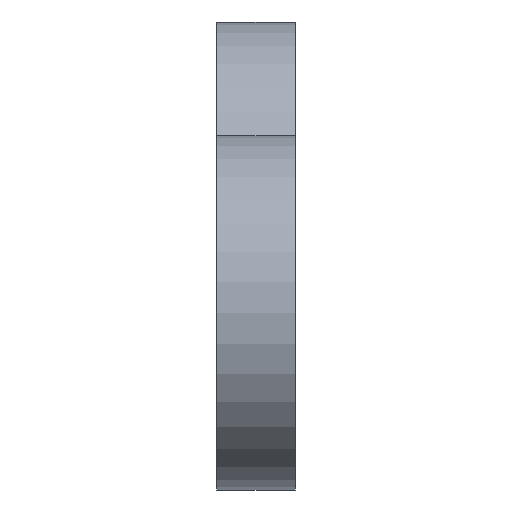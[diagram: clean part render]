
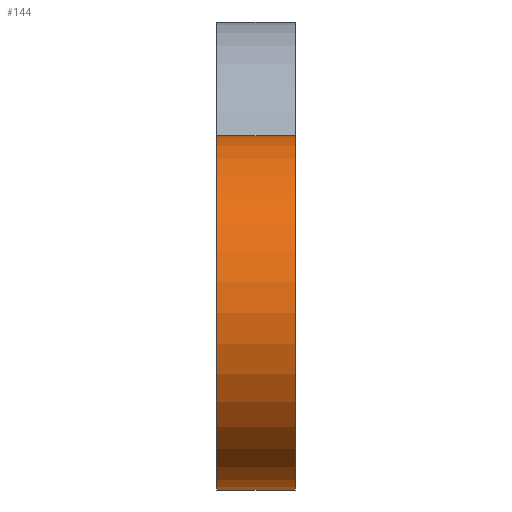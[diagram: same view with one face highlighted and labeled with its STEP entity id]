
A CAD part, top view. The second image highlights one B-rep face of the part: STEP entity #144.
In plain terms, the highlighted cylindrical face has radius 2.25 mm (diameter 4.5 mm), a partial arc.
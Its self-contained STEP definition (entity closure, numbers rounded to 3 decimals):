
#26=FACE_OUTER_BOUND('',#34,.T.);
#34=EDGE_LOOP('',(#113,#114,#115,#116));
#47=LINE('',#259,#57);
#48=LINE('',#262,#58);
#57=VECTOR('',#216,1000.);
#58=VECTOR('',#219,1000.);
#69=CIRCLE('',#182,2.25);
#70=CIRCLE('',#183,2.25);
#79=VERTEX_POINT('',#255);
#80=VERTEX_POINT('',#256);
#81=VERTEX_POINT('',#258);
#82=VERTEX_POINT('',#260);
#93=EDGE_CURVE('',#79,#80,#69,.T.);
#94=EDGE_CURVE('',#81,#79,#47,.T.);
#95=EDGE_CURVE('',#81,#82,#70,.T.);
#96=EDGE_CURVE('',#82,#80,#48,.T.);
#113=ORIENTED_EDGE('',*,*,#93,.F.);
#114=ORIENTED_EDGE('',*,*,#94,.F.);
#115=ORIENTED_EDGE('',*,*,#95,.T.);
#116=ORIENTED_EDGE('',*,*,#96,.T.);
#140=CYLINDRICAL_SURFACE('',#181,2.25);
#144=ADVANCED_FACE('',(#26),#140,.T.);
#181=AXIS2_PLACEMENT_3D('',#254,#212,#213);
#182=AXIS2_PLACEMENT_3D('',#257,#214,#215);
#183=AXIS2_PLACEMENT_3D('',#261,#217,#218);
#212=DIRECTION('center_axis',(1.,0.,0.));
#213=DIRECTION('ref_axis',(0.,-0.577,0.816));
#214=DIRECTION('center_axis',(1.,0.,0.));
#215=DIRECTION('ref_axis',(0.,0.,-1.));
#216=DIRECTION('',(1.,0.,0.));
#217=DIRECTION('center_axis',(1.,0.,0.));
#218=DIRECTION('ref_axis',(0.,0.,-1.));
#219=DIRECTION('',(1.,0.,0.));
#254=CARTESIAN_POINT('Origin',(-1.,0.,0.));
#255=CARTESIAN_POINT('',(0.,2.25,0.));
#256=CARTESIAN_POINT('',(0.,-0.75,-2.121));
#257=CARTESIAN_POINT('Origin',(0.,0.,0.));
#258=CARTESIAN_POINT('',(-1.,2.25,0.));
#259=CARTESIAN_POINT('',(-1.,2.25,0.));
#260=CARTESIAN_POINT('',(-1.,-0.75,-2.121));
#261=CARTESIAN_POINT('Origin',(-1.,0.,0.));
#262=CARTESIAN_POINT('',(-1.,-0.75,-2.121));
